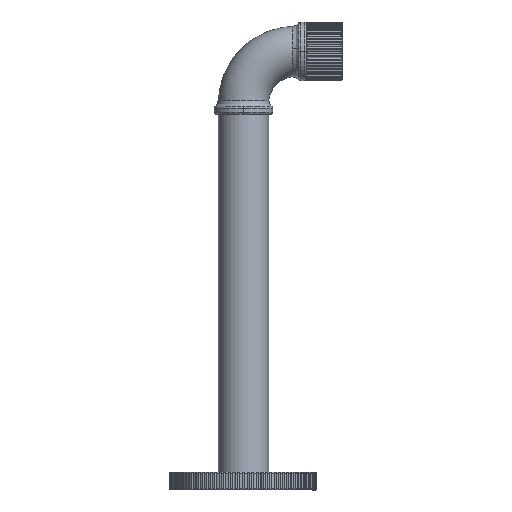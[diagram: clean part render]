
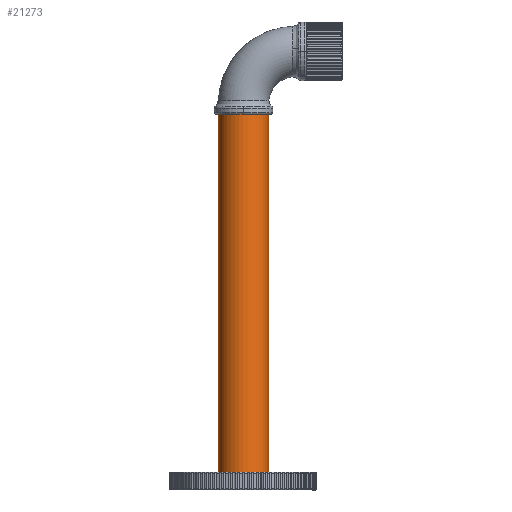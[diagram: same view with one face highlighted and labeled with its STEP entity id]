
A CAD part, left-side view. The second image highlights one B-rep face of the part: STEP entity #21273.
In plain terms, the highlighted cylindrical face has radius 12 mm (diameter 24 mm), a partial arc.
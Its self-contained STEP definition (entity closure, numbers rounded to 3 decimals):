
#1430 = CARTESIAN_POINT ( 'NONE',  ( 0., -11.965, 246.808 ) ) ;
#1449 = EDGE_LOOP ( 'NONE', ( #5063, #16052, #29461, #29375 ) ) ;
#2101 = CARTESIAN_POINT ( 'NONE',  ( 0., 0.035, 246.808 ) ) ;
#2896 = DIRECTION ( 'NONE',  ( 0., 0., 1. ) ) ;
#3412 = DIRECTION ( 'NONE',  ( 0., 0., 1. ) ) ;
#4924 = EDGE_CURVE ( 'NONE', #21470, #10534, #15218, .T. ) ;
#5063 = ORIENTED_EDGE ( 'NONE', *, *, #20547, .F. ) ;
#5413 = CARTESIAN_POINT ( 'NONE',  ( 0., 0.035, 255.808 ) ) ;
#5769 = CIRCLE ( 'NONE', #15703, 12. ) ;
#8618 = VERTEX_POINT ( 'NONE', #27510 ) ;
#10489 = EDGE_CURVE ( 'NONE', #8618, #10534, #5769, .T. ) ;
#10534 = VERTEX_POINT ( 'NONE', #1430 ) ;
#11565 = DIRECTION ( 'NONE',  ( 0., -1., 0. ) ) ;
#12104 = CYLINDRICAL_SURFACE ( 'NONE', #12184, 12. ) ;
#12184 = AXIS2_PLACEMENT_3D ( 'NONE', #5413, #17393, #21444 ) ;
#13308 = AXIS2_PLACEMENT_3D ( 'NONE', #26341, #2896, #19507 ) ;
#15218 = LINE ( 'NONE', #24680, #20751 ) ;
#15703 = AXIS2_PLACEMENT_3D ( 'NONE', #2101, #20583, #11565 ) ;
#16052 = ORIENTED_EDGE ( 'NONE', *, *, #29432, .T. ) ;
#16612 = VECTOR ( 'NONE', #18295, 1000. ) ;
#17393 = DIRECTION ( 'NONE',  ( 0., 0., 1. ) ) ;
#18295 = DIRECTION ( 'NONE',  ( 0., 0., 1. ) ) ;
#19507 = DIRECTION ( 'NONE',  ( 0., 1., 0. ) ) ;
#20547 = EDGE_CURVE ( 'NONE', #25053, #8618, #20619, .T. ) ;
#20583 = DIRECTION ( 'NONE',  ( 0., 0., 1. ) ) ;
#20619 = LINE ( 'NONE', #30090, #16612 ) ;
#20751 = VECTOR ( 'NONE', #3412, 1000. ) ;
#21273 = ADVANCED_FACE ( 'NONE', ( #26693 ), #12104, .T. ) ;
#21444 = DIRECTION ( 'NONE',  ( 0., -1., 0. ) ) ;
#21470 = VERTEX_POINT ( 'NONE', #29946 ) ;
#23030 = CARTESIAN_POINT ( 'NONE',  ( 0., 12.035, 74.308 ) ) ;
#24680 = CARTESIAN_POINT ( 'NONE',  ( 0., -11.965, 255.808 ) ) ;
#24732 = CIRCLE ( 'NONE', #13308, 12. ) ;
#25053 = VERTEX_POINT ( 'NONE', #23030 ) ;
#26341 = CARTESIAN_POINT ( 'NONE',  ( 0., 0.035, 74.308 ) ) ;
#26693 = FACE_OUTER_BOUND ( 'NONE', #1449, .T. ) ;
#27510 = CARTESIAN_POINT ( 'NONE',  ( 0., 12.035, 246.808 ) ) ;
#29375 = ORIENTED_EDGE ( 'NONE', *, *, #10489, .F. ) ;
#29432 = EDGE_CURVE ( 'NONE', #25053, #21470, #24732, .T. ) ;
#29461 = ORIENTED_EDGE ( 'NONE', *, *, #4924, .T. ) ;
#29946 = CARTESIAN_POINT ( 'NONE',  ( 0., -11.965, 74.308 ) ) ;
#30090 = CARTESIAN_POINT ( 'NONE',  ( 0., 12.035, 255.808 ) ) ;
